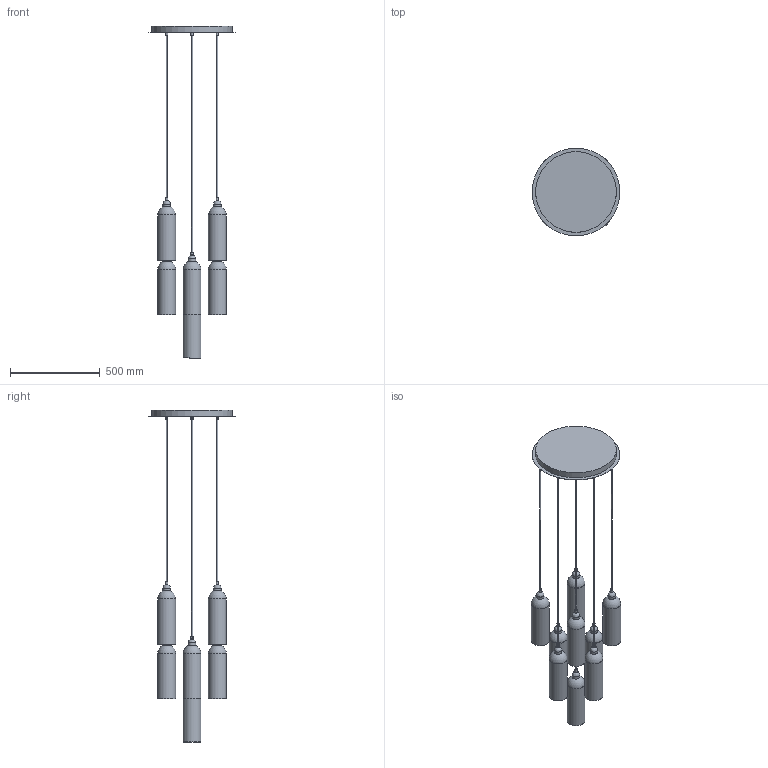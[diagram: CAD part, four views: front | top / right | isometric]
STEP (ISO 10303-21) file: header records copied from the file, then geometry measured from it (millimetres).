
FILE_DESCRIPTION(/* description */ (''),/* implementation_level */ '2;1');
FILE_NAME(/* name */ 'T:\B159 Odyssey Cluster 9\Pliki bryłowe handlowe\B159 Odyssey Cluster 9 3D files_na stronę\B159 Odyssey Cluster 9.stp',/* time_stamp */ '2022-02-02T14:29:01+01:00',/* author */ ('Mariusz Awariusz'),/* organization */ (''),/* preprocessor_version */ 'ST-DEVELOPER v18.1',/* originating_system */ 'Autodesk Inventor 2022',/* authorisation */ '');
FILE_SCHEMA (('AUTOMOTIVE_DESIGN { 1 0 10303 214 3 1 1 }'));
Length unit declared in the file: millimetre
Products named in the file (1): Odyssey Cluster 9 CE v5_na potrzeby plików 3D_2_jako część_
korpusy bryłowe
Bounding box: 490 x 490 x 1851.05 mm (x, y, z)
Volume: 8936869.3 mm3; surface area: 2690850 mm2
Topology: 59 solids, 59 shells, 273 faces, 423 edges, 259 vertices
Faces by surface type: plane 109, cylinder 77, cone 60, sphere 18, bspline 9
Full cylindrical faces by diameter (mm): 4 x8, 7 x9, 10 x4, 13 x18, 30 x9, 42 x9, 94 x9, 100 x9, 450 x1, 490 x1
Entity records: 6388 total; most frequent: DIRECTION 1239, CARTESIAN_POINT 1190, ORIENTED_EDGE 846, AXIS2_PLACEMENT_3D 551, EDGE_CURVE 423, CIRCLE 286, EDGE_LOOP 282, FACE_OUTER_BOUND 273
